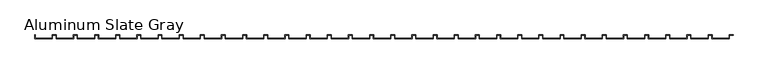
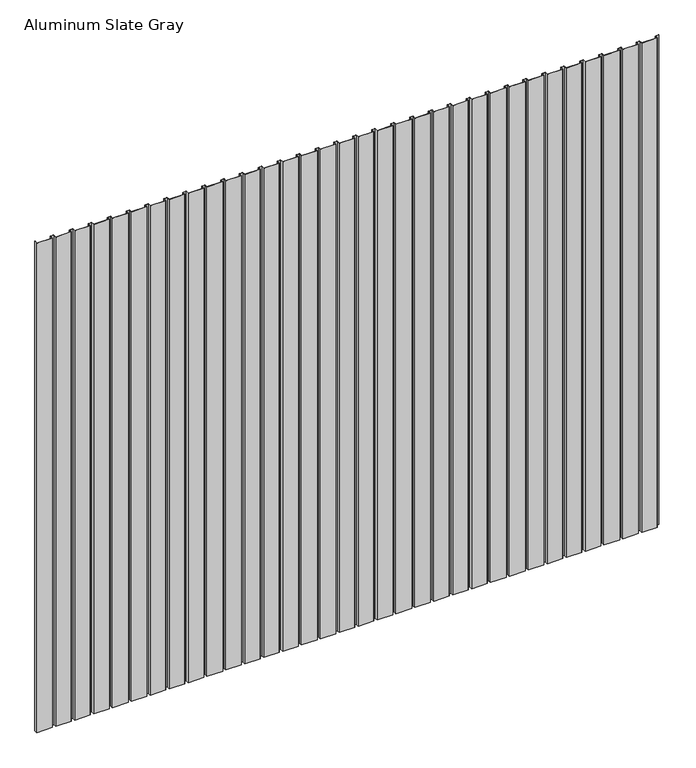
"""IFC4 building model written with IfcOpenShell, lengths in millimetres: proxy geometry, TitanTek VariPanel PLANK 475 : Aluminum Slate Gray."""

from ifc_helpers import new_model, si_unit, origin, origin_with_axes, place, context, project, spatial, polyline, outline, extrude, source, transform, mapped, element, save


def aluminum_slate_gray_4f0563ca(model_context):
    return source(origin(), model_context, "Body", "SweptSolid", [
        extrude(outline(polyline([(4794.25, -0.9921875), (4794.25, -25.4), (4673.6, -25.4), (4673.6, 0.0), (4674.5921875, 0.0), (4674.5921875, -24.4078125), (4793.2578125, -24.4078125), (4793.2578125, 0.0), (4819.65, 0.0), (4819.65, -0.9921875), (4794.25, -0.9921875)])), origin_with_axes(), (0.0, 0.0, 1.0), 4000.0),
        extrude(outline(polyline([(4648.2, -0.9921875), (4648.2, -25.4), (4527.55, -25.4), (4527.55, 0.0), (4528.5421875, 0.0), (4528.5421875, -24.4078125), (4647.2078125, -24.4078125), (4647.2078125, 0.0), (4673.6, 0.0), (4673.6, -0.9921875), (4648.2, -0.9921875)])), origin_with_axes(), (0.0, 0.0, 1.0), 4000.0),
        extrude(outline(polyline([(4502.15, -0.9921875), (4502.15, -25.4), (4381.5, -25.4), (4381.5, 0.0), (4382.4921875, 0.0), (4382.4921875, -24.4078125), (4501.1578125, -24.4078125), (4501.1578125, 0.0), (4527.55, 0.0), (4527.55, -0.9921875), (4502.15, -0.9921875)])), origin_with_axes(), (0.0, 0.0, 1.0), 4000.0),
        extrude(outline(polyline([(4356.1, -0.9921875), (4356.1, -25.4), (4235.45, -25.4), (4235.45, 0.0), (4236.4421875, 0.0), (4236.4421875, -24.4078125), (4355.1078125, -24.4078125), (4355.1078125, 0.0), (4381.5, 0.0), (4381.5, -0.9921875), (4356.1, -0.9921875)])), origin_with_axes(), (0.0, 0.0, 1.0), 4000.0),
        extrude(outline(polyline([(4210.05, -0.9921875), (4210.05, -25.4), (4089.4, -25.4), (4089.4, 0.0), (4090.3921875, 0.0), (4090.3921875, -24.4078125), (4209.0578125, -24.4078125), (4209.0578125, 0.0), (4235.45, 0.0), (4235.45, -0.9921875), (4210.05, -0.9921875)])), origin_with_axes(), (0.0, 0.0, 1.0), 4000.0),
        extrude(outline(polyline([(4064.0, -0.9921875), (4064.0, -25.4), (3943.35, -25.4), (3943.35, 0.0), (3944.3421875, 0.0), (3944.3421875, -24.4078125), (4063.0078125, -24.4078125), (4063.0078125, 0.0), (4089.4, 0.0), (4089.4, -0.9921875), (4064.0, -0.9921875)])), origin_with_axes(), (0.0, 0.0, 1.0), 4000.0),
        extrude(outline(polyline([(3917.95, -0.9921875), (3917.95, -25.4), (3797.3, -25.4), (3797.3, 0.0), (3798.2921875, 0.0), (3798.2921875, -24.4078125), (3916.9578125, -24.4078125), (3916.9578125, 0.0), (3943.35, 0.0), (3943.35, -0.9921875), (3917.95, -0.9921875)])), origin_with_axes(), (0.0, 0.0, 1.0), 4000.0),
        extrude(outline(polyline([(3771.9, -0.9921875), (3771.9, -25.4), (3651.25, -25.4), (3651.25, 0.0), (3652.2421875, 0.0), (3652.2421875, -24.4078125), (3770.9078125, -24.4078125), (3770.9078125, 0.0), (3797.3, 0.0), (3797.3, -0.9921875), (3771.9, -0.9921875)])), origin_with_axes(), (0.0, 0.0, 1.0), 4000.0),
        extrude(outline(polyline([(3625.85, -0.9921875), (3625.85, -25.4), (3505.2, -25.4), (3505.2, 0.0), (3506.1921875, 0.0), (3506.1921875, -24.4078125), (3624.8578125, -24.4078125), (3624.8578125, 0.0), (3651.25, 0.0), (3651.25, -0.9921875), (3625.85, -0.9921875)])), origin_with_axes(), (0.0, 0.0, 1.0), 4000.0),
        extrude(outline(polyline([(3479.8, -0.9921875), (3479.8, -25.4), (3359.15, -25.4), (3359.15, 0.0), (3360.1421875, 0.0), (3360.1421875, -24.4078125), (3478.8078125, -24.4078125), (3478.8078125, 0.0), (3505.2, 0.0), (3505.2, -0.9921875), (3479.8, -0.9921875)])), origin_with_axes(), (0.0, 0.0, 1.0), 4000.0),
        extrude(outline(polyline([(3333.75, -0.9921875), (3333.75, -25.4), (3213.1, -25.4), (3213.1, 0.0), (3214.0921875, 0.0), (3214.0921875, -24.4078125), (3332.7578125, -24.4078125), (3332.7578125, 0.0), (3359.15, 0.0), (3359.15, -0.9921875), (3333.75, -0.9921875)])), origin_with_axes(), (0.0, 0.0, 1.0), 4000.0),
        extrude(outline(polyline([(3187.7, -0.9921875), (3187.7, -25.4), (3067.05, -25.4), (3067.05, 0.0), (3068.0421875, 0.0), (3068.0421875, -24.4078125), (3186.7078125, -24.4078125), (3186.7078125, 0.0), (3213.1, 0.0), (3213.1, -0.9921875), (3187.7, -0.9921875)])), origin_with_axes(), (0.0, 0.0, 1.0), 4000.0),
        extrude(outline(polyline([(3041.65, -0.9921875), (3041.65, -25.4), (2921.0, -25.4), (2921.0, 0.0), (2921.9921875, 0.0), (2921.9921875, -24.4078125), (3040.6578125, -24.4078125), (3040.6578125, 0.0), (3067.05, 0.0), (3067.05, -0.9921875), (3041.65, -0.9921875)])), origin_with_axes(), (0.0, 0.0, 1.0), 4000.0),
        extrude(outline(polyline([(2895.6, -0.9921875), (2895.6, -25.4), (2774.95, -25.4), (2774.95, 0.0), (2775.9421875, 0.0), (2775.9421875, -24.4078125), (2894.6078125, -24.4078125), (2894.6078125, 0.0), (2921.0, 0.0), (2921.0, -0.9921875), (2895.6, -0.9921875)])), origin_with_axes(), (0.0, 0.0, 1.0), 4000.0),
        extrude(outline(polyline([(2749.55, -0.9921875), (2749.55, -25.4), (2628.9, -25.4), (2628.9, 0.0), (2629.8921875, 0.0), (2629.8921875, -24.4078125), (2748.5578125, -24.4078125), (2748.5578125, 0.0), (2774.95, 0.0), (2774.95, -0.9921875), (2749.55, -0.9921875)])), origin_with_axes(), (0.0, 0.0, 1.0), 4000.0),
        extrude(outline(polyline([(2603.5, -0.9921875), (2603.5, -25.4), (2482.85, -25.4), (2482.85, 0.0), (2483.8421875, 0.0), (2483.8421875, -24.4078125), (2602.5078125, -24.4078125), (2602.5078125, 0.0), (2628.9, 0.0), (2628.9, -0.9921875), (2603.5, -0.9921875)])), origin_with_axes(), (0.0, 0.0, 1.0), 4000.0),
        extrude(outline(polyline([(2457.45, -0.9921875), (2457.45, -25.4), (2336.8, -25.4), (2336.8, 0.0), (2337.7921875, 0.0), (2337.7921875, -24.4078125), (2456.4578125, -24.4078125), (2456.4578125, 0.0), (2482.85, 0.0), (2482.85, -0.9921875), (2457.45, -0.9921875)])), origin_with_axes(), (0.0, 0.0, 1.0), 4000.0),
        extrude(outline(polyline([(2311.4, -0.9921875), (2311.4, -25.4), (2190.75, -25.4), (2190.75, 0.0), (2191.7421875, 0.0), (2191.7421875, -24.4078125), (2310.4078125, -24.4078125), (2310.4078125, 0.0), (2336.8, 0.0), (2336.8, -0.9921875), (2311.4, -0.9921875)])), origin_with_axes(), (0.0, 0.0, 1.0), 4000.0),
        extrude(outline(polyline([(2165.35, -0.9921875), (2165.35, -25.4), (2044.7, -25.4), (2044.7, 0.0), (2045.6921875, 0.0), (2045.6921875, -24.4078125), (2164.3578125, -24.4078125), (2164.3578125, 0.0), (2190.75, 0.0), (2190.75, -0.9921875), (2165.35, -0.9921875)])), origin_with_axes(), (0.0, 0.0, 1.0), 4000.0),
        extrude(outline(polyline([(2019.3, -0.9921875), (2019.3, -25.4), (1898.65, -25.4), (1898.65, 0.0), (1899.6421875, 0.0), (1899.6421875, -24.4078125), (2018.3078125, -24.4078125), (2018.3078125, 0.0), (2044.7, 0.0), (2044.7, -0.9921875), (2019.3, -0.9921875)])), origin_with_axes(), (0.0, 0.0, 1.0), 4000.0),
        extrude(outline(polyline([(1873.25, -0.9921875), (1873.25, -25.4), (1752.6, -25.4), (1752.6, 0.0), (1753.5921875, 0.0), (1753.5921875, -24.4078125), (1872.2578125, -24.4078125), (1872.2578125, 0.0), (1898.65, 0.0), (1898.65, -0.9921875), (1873.25, -0.9921875)])), origin_with_axes(), (0.0, 0.0, 1.0), 4000.0),
        extrude(outline(polyline([(1727.2, -0.9921875), (1727.2, -25.4), (1606.55, -25.4), (1606.55, 0.0), (1607.5421875, 0.0), (1607.5421875, -24.4078125), (1726.2078125, -24.4078125), (1726.2078125, 0.0), (1752.6, 0.0), (1752.6, -0.9921875), (1727.2, -0.9921875)])), origin_with_axes(), (0.0, 0.0, 1.0), 4000.0),
        extrude(outline(polyline([(1581.15, -0.9921875), (1581.15, -25.4), (1460.5, -25.4), (1460.5, 0.0), (1461.4921875, 0.0), (1461.4921875, -24.4078125), (1580.1578125, -24.4078125), (1580.1578125, 0.0), (1606.55, 0.0), (1606.55, -0.9921875), (1581.15, -0.9921875)])), origin_with_axes(), (0.0, 0.0, 1.0), 4000.0),
        extrude(outline(polyline([(1435.1, -0.9921875), (1435.1, -25.4), (1314.45, -25.4), (1314.45, 0.0), (1315.4421875, 0.0), (1315.4421875, -24.4078125), (1434.1078125, -24.4078125), (1434.1078125, 0.0), (1460.5, 0.0), (1460.5, -0.9921875), (1435.1, -0.9921875)])), origin_with_axes(), (0.0, 0.0, 1.0), 4000.0),
        extrude(outline(polyline([(1289.05, -0.9921875), (1289.05, -25.4), (1168.4, -25.4), (1168.4, 0.0), (1169.3921875, 0.0), (1169.3921875, -24.4078125), (1288.0578125, -24.4078125), (1288.0578125, 0.0), (1314.45, 0.0), (1314.45, -0.9921875), (1289.05, -0.9921875)])), origin_with_axes(), (0.0, 0.0, 1.0), 4000.0),
        extrude(outline(polyline([(1143.0, -0.9921875), (1143.0, -25.4), (1022.35, -25.4), (1022.35, 0.0), (1023.3421875, 0.0), (1023.3421875, -24.4078125), (1142.0078125, -24.4078125), (1142.0078125, 0.0), (1168.4, 0.0), (1168.4, -0.9921875), (1143.0, -0.9921875)])), origin_with_axes(), (0.0, 0.0, 1.0), 4000.0),
        extrude(outline(polyline([(996.95, -0.9921875), (996.95, -25.4), (876.3, -25.4), (876.3, 0.0), (877.2921875, 0.0), (877.2921875, -24.4078125), (995.9578125, -24.4078125), (995.9578125, 0.0), (1022.35, 0.0), (1022.35, -0.9921875), (996.95, -0.9921875)])), origin_with_axes(), (0.0, 0.0, 1.0), 4000.0),
        extrude(outline(polyline([(850.9, -0.9921875), (850.9, -25.4), (730.25, -25.4), (730.25, 0.0), (731.2421875, 0.0), (731.2421875, -24.4078125), (849.9078125, -24.4078125), (849.9078125, 0.0), (876.3, 0.0), (876.3, -0.9921875), (850.9, -0.9921875)])), origin_with_axes(), (0.0, 0.0, 1.0), 4000.0),
        extrude(outline(polyline([(704.85, -0.9921875), (704.85, -25.4), (584.2, -25.4), (584.2, 0.0), (585.1921875, 0.0), (585.1921875, -24.4078125), (703.8578125, -24.4078125), (703.8578125, 0.0), (730.25, 0.0), (730.25, -0.9921875), (704.85, -0.9921875)])), origin_with_axes(), (0.0, 0.0, 1.0), 4000.0),
        extrude(outline(polyline([(558.8, -0.9921875), (558.8, -25.4), (438.15, -25.4), (438.15, 0.0), (439.1421875, 0.0), (439.1421875, -24.4078125), (557.8078125, -24.4078125), (557.8078125, 0.0), (584.2, 0.0), (584.2, -0.9921875), (558.8, -0.9921875)])), origin_with_axes(), (0.0, 0.0, 1.0), 4000.0),
        extrude(outline(polyline([(412.75, -0.9921875), (412.75, -25.4), (292.1, -25.4), (292.1, 0.0), (293.0921875, 0.0), (293.0921875, -24.4078125), (411.7578125, -24.4078125), (411.7578125, 0.0), (438.15, 0.0), (438.15, -0.9921875), (412.75, -0.9921875)])), origin_with_axes(), (0.0, 0.0, 1.0), 4000.0),
        extrude(outline(polyline([(266.7, -0.9921875), (266.7, -25.4), (146.05, -25.4), (146.05, 0.0), (147.0421875, 0.0), (147.0421875, -24.4078125), (265.7078125, -24.4078125), (265.7078125, 0.0), (292.1, 0.0), (292.1, -0.9921875), (266.7, -0.9921875)])), origin_with_axes(), (0.0, 0.0, 1.0), 4000.0),
        extrude(outline(polyline([(120.65, -0.9921875), (120.65, -25.4), (0.0, -25.4), (0.0, 0.0), (0.9921875, 0.0), (0.9921875, -24.4078125), (119.6578125, -24.4078125), (119.6578125, 0.0), (146.05, 0.0), (146.05, -0.9921875), (120.65, -0.9921875)])), origin_with_axes(), (0.0, 0.0, 1.0), 4000.0),
    ])


if __name__ == "__main__":
    model = new_model("IFC4")
    model_context = context("Model", 3, world=origin())
    ifc_project = project(units=[si_unit("LENGTHUNIT", "METRE", prefix="MILLI")], contexts=[model_context])
    site = spatial("IfcSite", under=ifc_project)
    building = spatial("IfcBuilding", under=site)
    placement = place(None, origin())
    aluminum_slate_gray_shape = aluminum_slate_gray_4f0563ca(model_context)
    element("IfcBuildingElementProxy", 1, Name="TitanTek VariPanel PLANK 475 : Aluminum Slate Gray", ObjectType="TitanTek VariPanel PLANK 475 : Aluminum Slate Gray", at=placement, inside=building, context=model_context, shape_type="MappedRepresentation", body=[
        mapped(aluminum_slate_gray_shape, transform((0.0, 0.0, 0.0), x_axis=(1.0, 0.0, 0.0), y_axis=(0.0, 1.0, 0.0), z_axis=(0.0, 0.0, 1.0))),
    ])
    save(model, "model.ifc")
